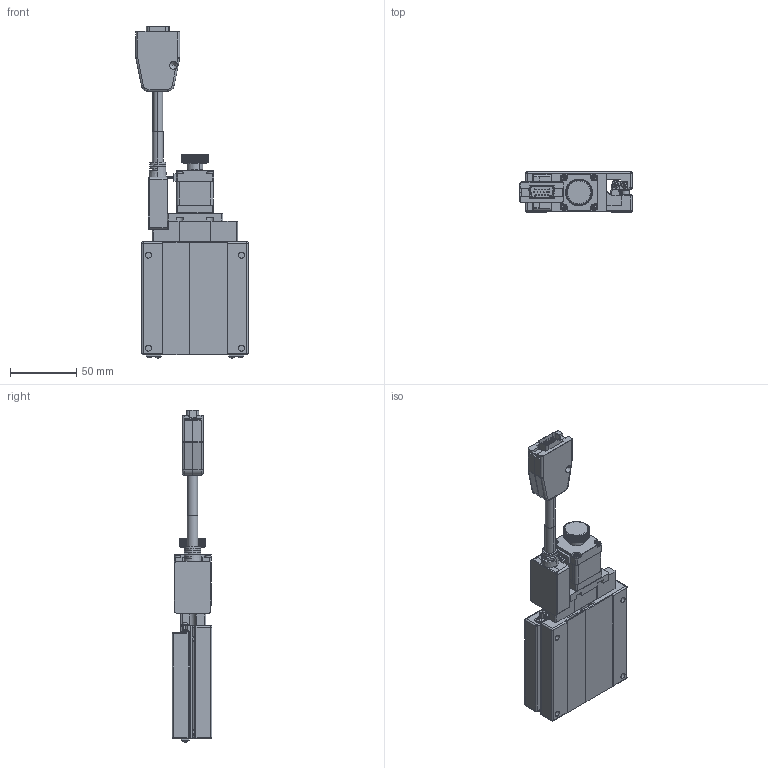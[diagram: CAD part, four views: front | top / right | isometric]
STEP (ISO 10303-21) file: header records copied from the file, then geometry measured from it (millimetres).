
FILE_DESCRIPTION (( 'STEP AP203' ), '1' );
FILE_NAME ('CXS8020-S-官網用.STEP', '2022-11-10T07:49:15', ( '' ), ( '' ), 'SwSTEP 2.0', 'SolidWorks 2019', '' );
FILE_SCHEMA (( 'CONFIG_CONTROL_DESIGN' ));
Products named in the file (3): CXS8020-S-官網用; Group1^CXS8020-S-官網用_GMT; Group2^CXS8020-S-官網用_GMT
Assembly tree (2 placements, depth 2):
  CXS8020-S-官網用
    Group1^CXS8020-S-官網用_GMT
    Group2^CXS8020-S-官網用_GMT
Bounding box: 84.5 x 30 x 249.8 mm (x, y, z)
Volume: 201056 mm3; surface area: 75905.9 mm2
Topology: 4 solids, 4 shells, 2604 faces, 6900 edges, 4365 vertices
Faces by surface type: plane 1404, cylinder 623, torus 202, cone 175, bspline 160, sphere 40
Entity records: 89342 total; most frequent: CARTESIAN_POINT 26043, ORIENTED_EDGE 13692, DIRECTION 12541, EDGE_CURVE 6846, AXIS2_PLACEMENT_3D 4425, VERTEX_POINT 4365, VECTOR 3691, LINE 3691
